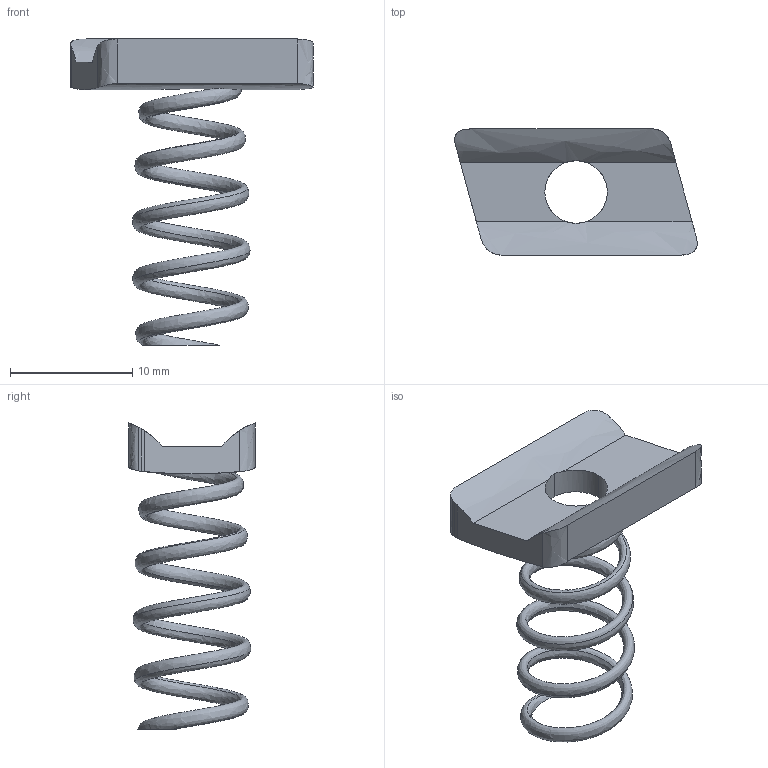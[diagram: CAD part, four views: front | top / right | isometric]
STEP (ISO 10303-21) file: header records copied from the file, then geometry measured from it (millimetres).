
FILE_DESCRIPTION(('TurboCAD Mac Pro'),'Build 980');
FILE_NAME('P6006-1032.stp',' ',(''),(''),'ACIS Interop','IMSI','TurboCAD Mac Pro BY IMSI, INCORPORATED');
FILE_SCHEMA(('automotive_design'));
Length unit declared in the file: inch
Products named in the file (1): 1
Bounding box: 19.82 x 10.31 x 25.01 mm (x, y, z)
Volume: 552.9 mm3; surface area: 979.6 mm2
Topology: 1 solids, 1 shells, 28 faces, 81 edges, 53 vertices
Faces by surface type: bspline 15, plane 13
Entity records: 3085 total; most frequent: CARTESIAN_POINT 2236, ORIENTED_EDGE 162, EDGE_CURVE 81, DIRECTION 61, VERTEX_POINT 53, B_SPLINE_CURVE_WITH_KNOTS 48, LINE 33, VECTOR 33
